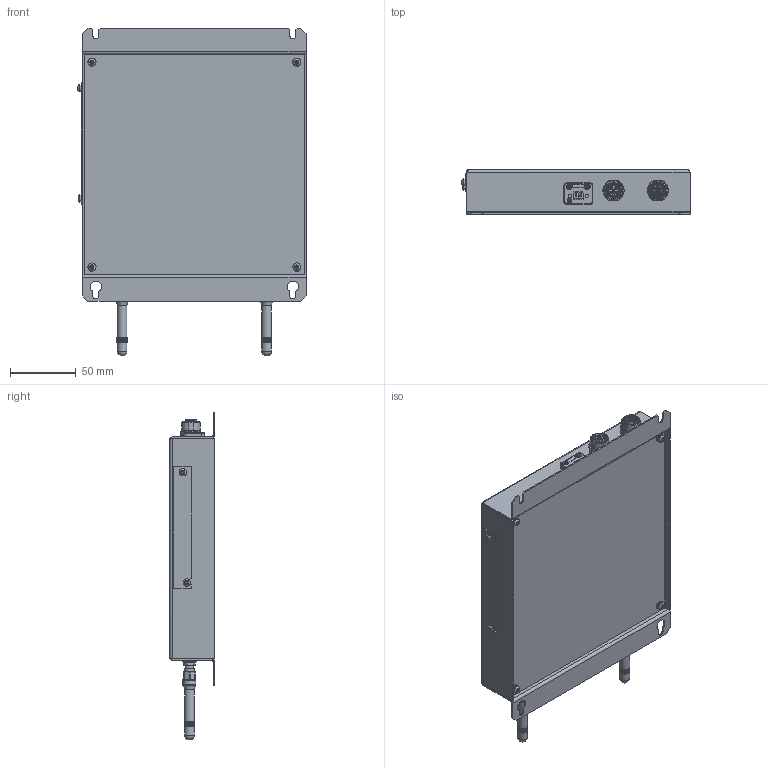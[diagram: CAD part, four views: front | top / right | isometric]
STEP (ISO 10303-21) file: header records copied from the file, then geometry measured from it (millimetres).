
FILE_DESCRIPTION (( 'STEP AP214' ), '1' );
FILE_NAME ('BWH011 12-246-011.STEP', '2020-10-22T12:25:52', ( 'Windows-Benutzer' ), ( '' ), 'SwSTEP 2.0', 'SolidWorks 2018', '' );
FILE_SCHEMA (( 'AUTOMOTIVE_DESIGN' ));
Length unit declared in the file: millimetre
Products named in the file (1): BWH011 12-246-011
Bounding box: 173.6 x 34 x 249.67 mm (x, y, z)
Surface area: 198203.4 mm2 (no closed solid volume)
Topology: 0 solids, 88 shells, 6497 faces, 17856 edges, 11573 vertices
Faces by surface type: plane 4131, cylinder 1661, bspline 518, cone 158, torus 27, sphere 2
Full cylindrical faces by diameter (mm): 0.1 x2, 0.217 x1, 0.457 x1, 0.55 x2, 0.6 x2, 0.7 x4, 0.75 x1, 0.78 x24, 0.8 x4, 1 x9, 1.05 x6, 1.1 x9, 1.24 x4, 1.6 x7, 1.8 x2, 2 x7, 2.3 x2, 2.362 x2, 2.391 x2, 2.4 x2, 2.459 x6, 2.5 x14, 2.98 x2, 3 x26, 3.1 x1, 3.2 x7, 3.3 x2, 3.5 x4, 3.883 x4, 3.912 x4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
Entity records: 305672 total; most frequent: CARTESIAN_POINT 77801, ORIENTED_EDGE 34375, DIRECTION 28305, EDGE_CURVE 17199, VERTEX_POINT 11383, VECTOR 11085, LINE 11085, AXIS2_PLACEMENT_3D 8610
